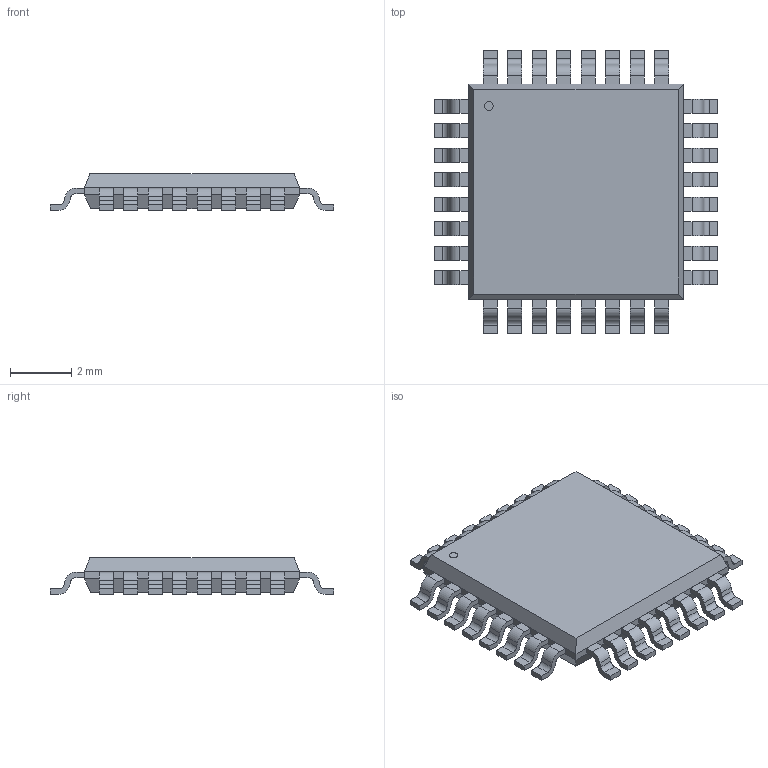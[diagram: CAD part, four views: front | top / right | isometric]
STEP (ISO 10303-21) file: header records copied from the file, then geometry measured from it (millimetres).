
FILE_DESCRIPTION(('STEP AP214'),'1');
FILE_NAME('32A_ATM','2022-04-29T09:40:08',(''),(''),'','','');
FILE_SCHEMA(('AUTOMOTIVE_DESIGN'));
Length unit declared in the file: millimetre
Products named in the file (1): product
Bounding box: 9.25 x 9.25 x 1.2 mm (x, y, z)
Volume: 57.5 mm3; surface area: 184.5 mm2
Topology: 34 solids, 34 shells, 465 faces, 1183 edges, 786 vertices
Faces by surface type: plane 336, cylinder 129
Full cylindrical faces by diameter (mm): 0.28 x1
Entity records: 13368 total; most frequent: DIRECTION 2374, ORIENTED_EDGE 2364, CARTESIAN_POINT 1383, EDGE_CURVE 1182, LINE 924, VECTOR 924, VERTEX_POINT 786, AXIS2_PLACEMENT_3D 725
